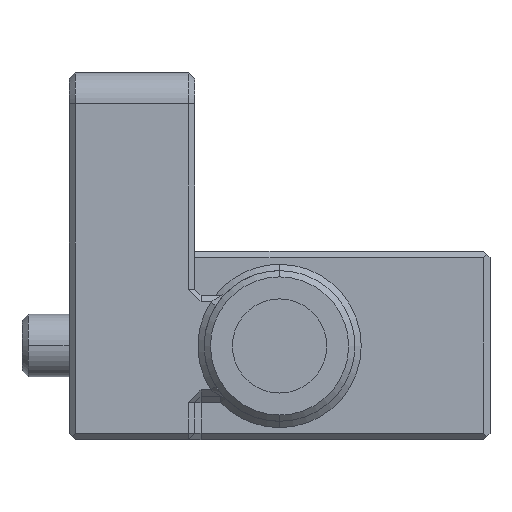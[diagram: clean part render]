
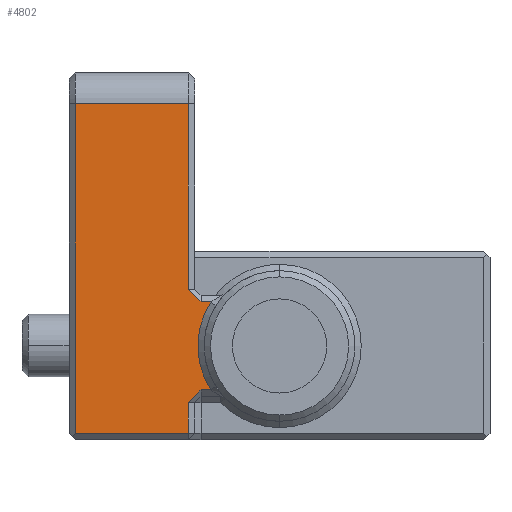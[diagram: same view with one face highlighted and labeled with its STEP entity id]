
A CAD part, front view. The second image highlights one B-rep face of the part: STEP entity #4802.
In plain terms, the highlighted planar face has unit normal (0, -1, 0).
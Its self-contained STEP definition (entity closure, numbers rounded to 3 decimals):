
#44 = DIRECTION ( 'NONE',  ( -1., 0., 0. ) ) ;
#50 = LINE ( 'NONE', #6394, #4828 ) ;
#127 = CARTESIAN_POINT ( 'NONE',  ( -4.612, -5.014, 10.986 ) ) ;
#153 = VERTEX_POINT ( 'NONE', #9187 ) ;
#397 = VERTEX_POINT ( 'NONE', #7943 ) ;
#562 = CARTESIAN_POINT ( 'NONE',  ( -8.412, -5.014, 10. ) ) ;
#733 = LINE ( 'NONE', #2513, #10524 ) ;
#833 = EDGE_CURVE ( 'NONE', #11086, #397, #1072, .T. ) ;
#1031 = CARTESIAN_POINT ( 'NONE',  ( -8.212, -5.014, 10. ) ) ;
#1072 = CIRCLE ( 'NONE', #9575, 2.6 ) ;
#1215 = VERTEX_POINT ( 'NONE', #11680 ) ;
#1307 = VERTEX_POINT ( 'NONE', #127 ) ;
#1325 = CARTESIAN_POINT ( 'NONE',  ( -4.212, -5.014, 14.186 ) ) ;
#1531 = PLANE ( 'NONE',  #1903 ) ;
#1564 = LINE ( 'NONE', #4050, #10333 ) ;
#1903 = AXIS2_PLACEMENT_3D ( 'NONE', #8753, #4255, #2590 ) ;
#2108 = ORIENTED_EDGE ( 'NONE', *, *, #11227, .F. ) ;
#2135 = DIRECTION ( 'NONE',  ( -1., 0., 0. ) ) ;
#2513 = CARTESIAN_POINT ( 'NONE',  ( -4.612, -5.014, 21.5 ) ) ;
#2590 = DIRECTION ( 'NONE',  ( 0., 0., 1. ) ) ;
#2595 = DIRECTION ( 'NONE',  ( 0., 0., 1. ) ) ;
#2831 = ORIENTED_EDGE ( 'NONE', *, *, #10674, .F. ) ;
#3089 = VECTOR ( 'NONE', #44, 1000. ) ;
#3308 = DIRECTION ( 'NONE',  ( 0., 1., 0. ) ) ;
#3424 = FACE_OUTER_BOUND ( 'NONE', #6001, .T. ) ;
#3928 = DIRECTION ( 'NONE',  ( 0., 0., -1. ) ) ;
#4050 = CARTESIAN_POINT ( 'NONE',  ( -4.612, -5.014, 21.5 ) ) ;
#4255 = DIRECTION ( 'NONE',  ( 0., 1., 0. ) ) ;
#4368 = VECTOR ( 'NONE', #11394, 1000. ) ;
#4658 = VECTOR ( 'NONE', #4825, 1000. ) ;
#4802 = ADVANCED_FACE ( 'NONE', ( #3424 ), #1531, .F. ) ;
#4825 = DIRECTION ( 'NONE',  ( 0.707, 0., -0.707 ) ) ;
#4828 = VECTOR ( 'NONE', #5447, 1000. ) ;
#4882 = CARTESIAN_POINT ( 'NONE',  ( -8.212, -5.014, 10. ) ) ;
#5088 = ORIENTED_EDGE ( 'NONE', *, *, #9332, .T. ) ;
#5105 = EDGE_CURVE ( 'NONE', #11095, #10472, #5184, .T. ) ;
#5138 = ORIENTED_EDGE ( 'NONE', *, *, #9434, .T. ) ;
#5184 = LINE ( 'NONE', #562, #4368 ) ;
#5237 = ORIENTED_EDGE ( 'NONE', *, *, #7563, .T. ) ;
#5382 = CARTESIAN_POINT ( 'NONE',  ( -8.412, -5.014, 20.5 ) ) ;
#5428 = CARTESIAN_POINT ( 'NONE',  ( -3.902, -5.014, 11.386 ) ) ;
#5447 = DIRECTION ( 'NONE',  ( -0.707, 0., -0.707 ) ) ;
#5692 = EDGE_CURVE ( 'NONE', #397, #1215, #10230, .T. ) ;
#5798 = ORIENTED_EDGE ( 'NONE', *, *, #5105, .T. ) ;
#5919 = ORIENTED_EDGE ( 'NONE', *, *, #9579, .T. ) ;
#6001 = EDGE_LOOP ( 'NONE', ( #5237, #5088, #5798, #5919, #2831, #11453, #10453, #10675, #2108, #5138 ) ) ;
#6252 = EDGE_CURVE ( 'NONE', #153, #11086, #9512, .T. ) ;
#6278 = CARTESIAN_POINT ( 'NONE',  ( -4.612, -5.014, 14.586 ) ) ;
#6370 = CARTESIAN_POINT ( 'NONE',  ( -8.212, -5.014, 20.5 ) ) ;
#6394 = CARTESIAN_POINT ( 'NONE',  ( -4.612, -5.014, 10.986 ) ) ;
#6720 = LINE ( 'NONE', #1325, #4658 ) ;
#7432 = LINE ( 'NONE', #4882, #7731 ) ;
#7563 = EDGE_CURVE ( 'NONE', #10991, #9236, #10693, .T. ) ;
#7658 = DIRECTION ( 'NONE',  ( 0., 0., 1. ) ) ;
#7731 = VECTOR ( 'NONE', #3928, 1000. ) ;
#7943 = CARTESIAN_POINT ( 'NONE',  ( -3.902, -5.014, 14.186 ) ) ;
#8753 = CARTESIAN_POINT ( 'NONE',  ( -8.412, -5.014, 21.5 ) ) ;
#8795 = VERTEX_POINT ( 'NONE', #6278 ) ;
#9187 = CARTESIAN_POINT ( 'NONE',  ( -4.212, -5.014, 11.386 ) ) ;
#9236 = VERTEX_POINT ( 'NONE', #6370 ) ;
#9332 = EDGE_CURVE ( 'NONE', #9236, #11095, #7432, .T. ) ;
#9434 = EDGE_CURVE ( 'NONE', #8795, #10991, #1564, .T. ) ;
#9471 = VECTOR ( 'NONE', #10756, 1000. ) ;
#9512 = LINE ( 'NONE', #11464, #9471 ) ;
#9575 = AXIS2_PLACEMENT_3D ( 'NONE', #11649, #3308, #2595 ) ;
#9579 = EDGE_CURVE ( 'NONE', #10472, #1307, #733, .T. ) ;
#10230 = LINE ( 'NONE', #11302, #11171 ) ;
#10242 = CARTESIAN_POINT ( 'NONE',  ( -4.612, -5.014, 10. ) ) ;
#10333 = VECTOR ( 'NONE', #7658, 1000. ) ;
#10453 = ORIENTED_EDGE ( 'NONE', *, *, #833, .T. ) ;
#10472 = VERTEX_POINT ( 'NONE', #10242 ) ;
#10505 = CARTESIAN_POINT ( 'NONE',  ( -4.612, -5.014, 20.5 ) ) ;
#10524 = VECTOR ( 'NONE', #10612, 1000. ) ;
#10612 = DIRECTION ( 'NONE',  ( 0., 0., 1. ) ) ;
#10674 = EDGE_CURVE ( 'NONE', #153, #1307, #50, .T. ) ;
#10675 = ORIENTED_EDGE ( 'NONE', *, *, #5692, .T. ) ;
#10693 = LINE ( 'NONE', #5382, #3089 ) ;
#10756 = DIRECTION ( 'NONE',  ( 1., 0., 0. ) ) ;
#10991 = VERTEX_POINT ( 'NONE', #10505 ) ;
#11086 = VERTEX_POINT ( 'NONE', #5428 ) ;
#11095 = VERTEX_POINT ( 'NONE', #1031 ) ;
#11171 = VECTOR ( 'NONE', #2135, 1000. ) ;
#11227 = EDGE_CURVE ( 'NONE', #8795, #1215, #6720, .T. ) ;
#11302 = CARTESIAN_POINT ( 'NONE',  ( -4.412, -5.014, 14.186 ) ) ;
#11394 = DIRECTION ( 'NONE',  ( 1., 0., 0. ) ) ;
#11453 = ORIENTED_EDGE ( 'NONE', *, *, #6252, .T. ) ;
#11464 = CARTESIAN_POINT ( 'NONE',  ( -3.5, -5.014, 11.386 ) ) ;
#11649 = CARTESIAN_POINT ( 'NONE',  ( -1.712, -5.014, 12.786 ) ) ;
#11680 = CARTESIAN_POINT ( 'NONE',  ( -4.212, -5.014, 14.186 ) ) ;
